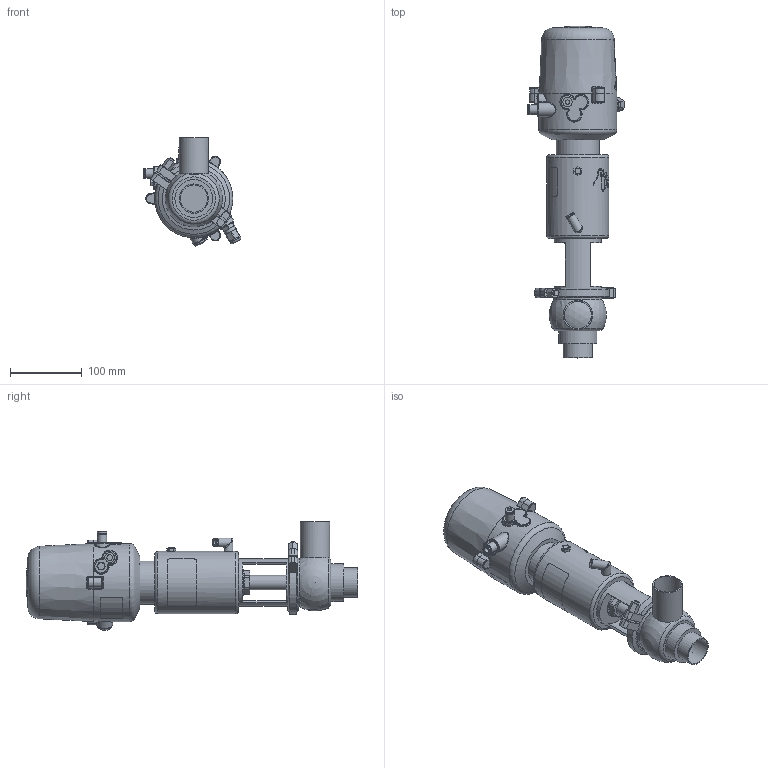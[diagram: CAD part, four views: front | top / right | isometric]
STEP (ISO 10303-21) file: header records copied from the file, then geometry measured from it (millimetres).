
FILE_DESCRIPTION (( 'STEP AP214' ), '1' );
FILE_NAME ('INNOVA N L W DIN 040 T1 AS NC & C-TOP S_10.240.16.0055.STEP', '2024-08-06T08:00:39', ( '' ), ( '' ), 'SwSTEP 2.0', 'SolidWorks 2023', '' );
FILE_SCHEMA (( 'AUTOMOTIVE_DESIGN' ));
Length unit declared in the file: millimetre
Products named in the file (7): 10.240.15.0010_DN 040; 10.426.15.0001_C-TOP S - 1 EV; 10.240.15.0017_Estàndard; INNOVA N L W DIN 040 T1 AS NC & C-TOP S_10.240.16.0055; 10.240.15.0002_DIN 040; 10.240.15.0014_T1 AS P0; 10.240.15.0001_DN 040
Assembly tree (6 placements, depth 2):
  INNOVA N L W DIN 040 T1 AS NC & C-TOP S_10.240.16.0055
    10.240.15.0002_DIN 040
    10.240.15.0010_DN 040
    10.240.15.0014_T1 AS P0
    10.240.15.0017_Estàndard
    10.426.15.0001_C-TOP S - 1 EV
    10.240.15.0001_DN 040
Bounding box: 136.88 x 464 x 151.63 mm (x, y, z)
Volume: 2555572 mm3; surface area: 225348 mm2
Topology: 6 solids, 6 shells, 1100 faces, 2644 edges, 1764 vertices
Faces by surface type: plane 375, cylinder 330, cone 191, bspline 160, torus 38, sphere 6
Full cylindrical faces by diameter (mm): 0.371 x17, 0.512 x16, 0.658 x16, 0.795 x16, 0.94 x15, 1.098 x15, 1.241 x13, 1.382 x13, 1.523 x11, 1.669 x10, 2.201 x1, 4 x2, 5.5 x2, 6 x2, 6.15 x1, 8 x4, 8.5 x1, 10 x1, 10.5 x1, 11 x2, 12.5 x3, 13 x2, 13.5 x2, 16 x1, 17 x3, 20 x3, 20.5 x1, 22 x2, 31 x1, 34.5 x3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
Entity records: 56698 total; most frequent: CARTESIAN_POINT 26734, ORIENTED_EDGE 4490, DIRECTION 3597, EDGE_CURVE 2245, VERTEX_POINT 1594, EDGE_LOOP 1547, AXIS2_PLACEMENT_3D 1470, FACE_OUTER_BOUND 1312
